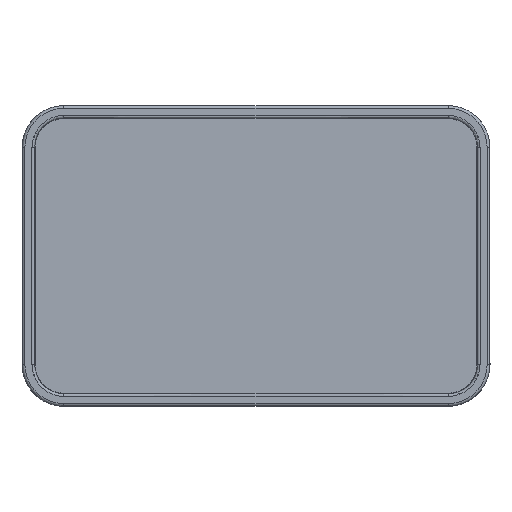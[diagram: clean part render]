
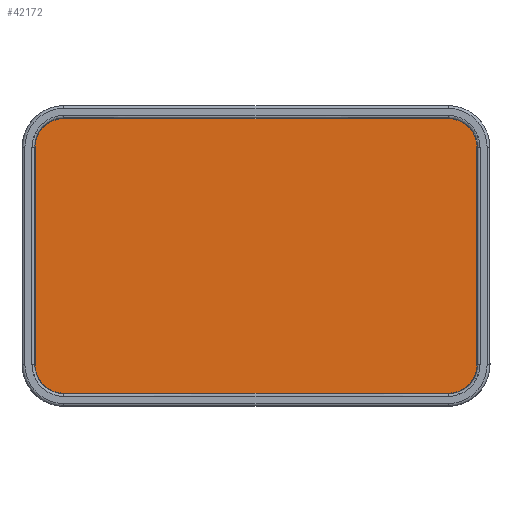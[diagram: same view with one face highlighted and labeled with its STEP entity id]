
A CAD part, top view. The second image highlights one B-rep face of the part: STEP entity #42172.
In plain terms, the highlighted planar face has unit normal (0, 0, 1).
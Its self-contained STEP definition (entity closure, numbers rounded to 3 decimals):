
#1100 = CARTESIAN_POINT ( 'NONE',  ( 48.93, 2.4, 8.75 ) ) ;
#1463 = EDGE_CURVE ( 'NONE', #45554, #18841, #3828, .T. ) ;
#2938 = CARTESIAN_POINT ( 'NONE',  ( -0.5, 31.83, 8.75 ) ) ;
#3085 = ORIENTED_EDGE ( 'NONE', *, *, #38328, .T. ) ;
#3828 = CIRCLE ( 'NONE', #10368, 3.43 ) ;
#4868 = ORIENTED_EDGE ( 'NONE', *, *, #13754, .T. ) ;
#4873 = CARTESIAN_POINT ( 'NONE',  ( -0.5, 28.4, 8.75 ) ) ;
#5687 = DIRECTION ( 'NONE',  ( 1., 0., 0. ) ) ;
#5911 = EDGE_CURVE ( 'NONE', #18760, #43933, #18805, .T. ) ;
#6429 = CARTESIAN_POINT ( 'NONE',  ( 45.5, 31.83, 8.75 ) ) ;
#6877 = AXIS2_PLACEMENT_3D ( 'NONE', #13329, #33487, #13571 ) ;
#8614 = ORIENTED_EDGE ( 'NONE', *, *, #5911, .T. ) ;
#10368 = AXIS2_PLACEMENT_3D ( 'NONE', #20954, #32703, #20198 ) ;
#10965 = CIRCLE ( 'NONE', #6877, 3.43 ) ;
#13329 = CARTESIAN_POINT ( 'NONE',  ( -0.5, 2.4, 8.75 ) ) ;
#13484 = VERTEX_POINT ( 'NONE', #39247 ) ;
#13571 = DIRECTION ( 'NONE',  ( 1., 0., 0. ) ) ;
#13754 = EDGE_CURVE ( 'NONE', #29634, #45554, #39901, .T. ) ;
#15904 = DIRECTION ( 'NONE',  ( 1., 0., 0. ) ) ;
#18760 = VERTEX_POINT ( 'NONE', #24851 ) ;
#18805 = CIRCLE ( 'NONE', #23677, 3.43 ) ;
#18841 = VERTEX_POINT ( 'NONE', #6429 ) ;
#20066 = ORIENTED_EDGE ( 'NONE', *, *, #1463, .T. ) ;
#20198 = DIRECTION ( 'NONE',  ( 1., 0., 0. ) ) ;
#20393 = CARTESIAN_POINT ( 'NONE',  ( -3.93, 2.4, 8.75 ) ) ;
#20954 = CARTESIAN_POINT ( 'NONE',  ( 45.5, 28.4, 8.75 ) ) ;
#21624 = LINE ( 'NONE', #2938, #38706 ) ;
#21645 = CARTESIAN_POINT ( 'NONE',  ( -3.93, 2.4, 8.75 ) ) ;
#21949 = CARTESIAN_POINT ( 'NONE',  ( 48.93, 2.4, 8.75 ) ) ;
#22660 = ORIENTED_EDGE ( 'NONE', *, *, #41371, .T. ) ;
#22950 = CARTESIAN_POINT ( 'NONE',  ( -0.5, 2.4, 8.75 ) ) ;
#23677 = AXIS2_PLACEMENT_3D ( 'NONE', #4873, #36044, #15904 ) ;
#23892 = VECTOR ( 'NONE', #44881, 1000. ) ;
#24520 = CARTESIAN_POINT ( 'NONE',  ( -3.93, 28.4, 8.75 ) ) ;
#24851 = CARTESIAN_POINT ( 'NONE',  ( -0.5, 31.83, 8.75 ) ) ;
#28628 = VECTOR ( 'NONE', #5687, 1000. ) ;
#28925 = DIRECTION ( 'NONE',  ( 0., 1., 0. ) ) ;
#29029 = DIRECTION ( 'NONE',  ( 1., 0., 0. ) ) ;
#29634 = VERTEX_POINT ( 'NONE', #21949 ) ;
#31043 = CIRCLE ( 'NONE', #39969, 3.43 ) ;
#32535 = LINE ( 'NONE', #33034, #28628 ) ;
#32703 = DIRECTION ( 'NONE',  ( 0., 0., 1. ) ) ;
#32823 = EDGE_CURVE ( 'NONE', #38829, #29634, #31043, .T. ) ;
#32922 = ORIENTED_EDGE ( 'NONE', *, *, #41035, .T. ) ;
#33034 = CARTESIAN_POINT ( 'NONE',  ( -0.5, -1.03, 8.75 ) ) ;
#33487 = DIRECTION ( 'NONE',  ( 0., 0., 1. ) ) ;
#33637 = CARTESIAN_POINT ( 'NONE',  ( 48.93, 28.4, 8.75 ) ) ;
#33814 = AXIS2_PLACEMENT_3D ( 'NONE', #22950, #38512, #29029 ) ;
#34547 = EDGE_LOOP ( 'NONE', ( #32922, #8614, #3085, #22660, #36706, #47681, #4868, #20066 ) ) ;
#34645 = DIRECTION ( 'NONE',  ( 0., 0., 1. ) ) ;
#36044 = DIRECTION ( 'NONE',  ( 0., 0., 1. ) ) ;
#36706 = ORIENTED_EDGE ( 'NONE', *, *, #47160, .T. ) ;
#37432 = DIRECTION ( 'NONE',  ( -1., 0., 0. ) ) ;
#38247 = VERTEX_POINT ( 'NONE', #20393 ) ;
#38328 = EDGE_CURVE ( 'NONE', #43933, #38247, #44635, .T. ) ;
#38465 = DIRECTION ( 'NONE',  ( 1., 0., 0. ) ) ;
#38512 = DIRECTION ( 'NONE',  ( 0., 0., 1. ) ) ;
#38706 = VECTOR ( 'NONE', #37432, 1000. ) ;
#38829 = VERTEX_POINT ( 'NONE', #42961 ) ;
#39247 = CARTESIAN_POINT ( 'NONE',  ( -0.5, -1.03, 8.75 ) ) ;
#39901 = LINE ( 'NONE', #1100, #49690 ) ;
#39969 = AXIS2_PLACEMENT_3D ( 'NONE', #50492, #34645, #38465 ) ;
#41035 = EDGE_CURVE ( 'NONE', #18841, #18760, #21624, .T. ) ;
#41371 = EDGE_CURVE ( 'NONE', #38247, #13484, #10965, .T. ) ;
#42172 = ADVANCED_FACE ( 'NONE', ( #47435 ), #43609, .T. ) ;
#42961 = CARTESIAN_POINT ( 'NONE',  ( 45.5, -1.03, 8.75 ) ) ;
#43609 = PLANE ( 'NONE',  #33814 ) ;
#43933 = VERTEX_POINT ( 'NONE', #24520 ) ;
#44635 = LINE ( 'NONE', #21645, #23892 ) ;
#44881 = DIRECTION ( 'NONE',  ( 0., -1., 0. ) ) ;
#45554 = VERTEX_POINT ( 'NONE', #33637 ) ;
#47160 = EDGE_CURVE ( 'NONE', #13484, #38829, #32535, .T. ) ;
#47435 = FACE_OUTER_BOUND ( 'NONE', #34547, .T. ) ;
#47681 = ORIENTED_EDGE ( 'NONE', *, *, #32823, .T. ) ;
#49690 = VECTOR ( 'NONE', #28925, 1000. ) ;
#50492 = CARTESIAN_POINT ( 'NONE',  ( 45.5, 2.4, 8.75 ) ) ;
